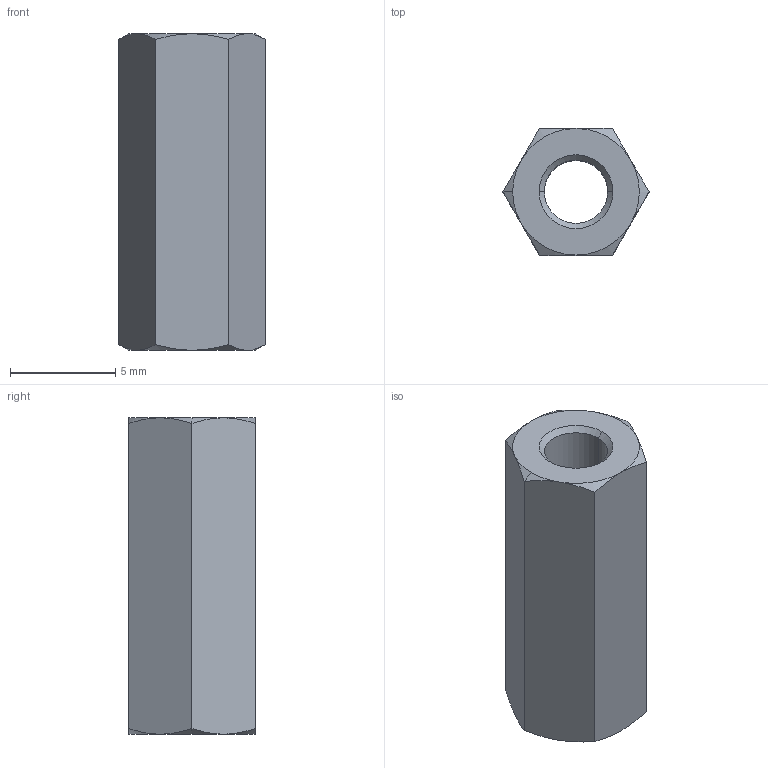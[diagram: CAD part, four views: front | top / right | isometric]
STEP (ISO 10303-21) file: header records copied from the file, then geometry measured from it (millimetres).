
FILE_DESCRIPTION (( 'STEP AP203' ), '1' );
FILE_NAME ('N0503.030-015-NP.step', '2025-02-27T14:41:04', ( '' ), ( '' ), 'SwSTEP 2.0', 'SolidWorks 2019', '' );
FILE_SCHEMA (( 'CONFIG_CONTROL_DESIGN' ));
Length unit declared in the file: millimetre
Products named in the file (1): N0503.030-015-NP
Bounding box: 6.93 x 6 x 15 mm (x, y, z)
Volume: 360.5 mm3; surface area: 495.8 mm2
Topology: 1 solids, 1 shells, 28 faces, 60 edges, 34 vertices
Faces by surface type: cone 18, plane 8, cylinder 2
Entity records: 875 total; most frequent: CARTESIAN_POINT 223, ORIENTED_EDGE 120, DIRECTION 116, EDGE_CURVE 60, AXIS2_PLACEMENT_3D 51, VERTEX_POINT 34, EDGE_LOOP 30, FACE_OUTER_BOUND 28
